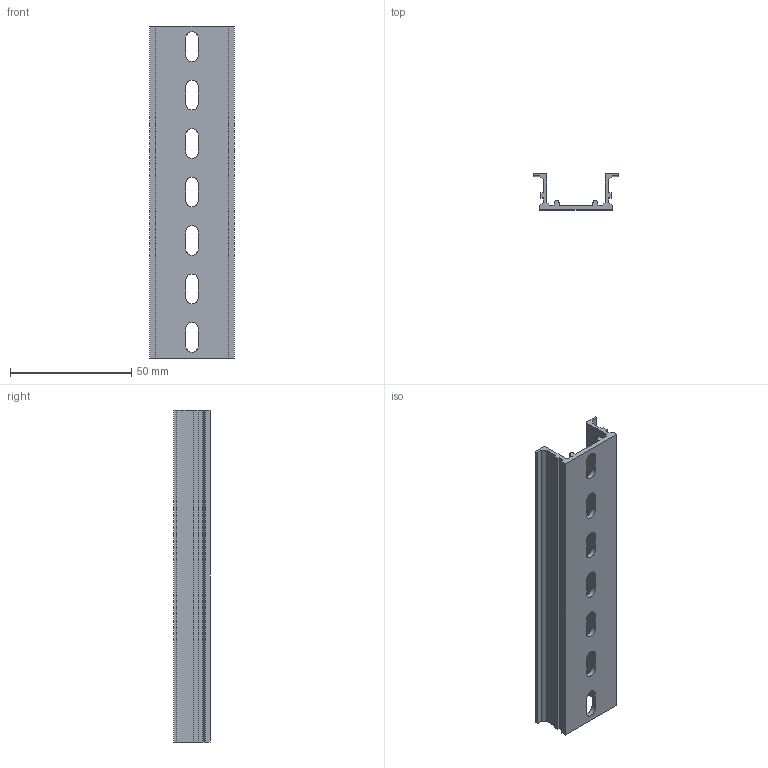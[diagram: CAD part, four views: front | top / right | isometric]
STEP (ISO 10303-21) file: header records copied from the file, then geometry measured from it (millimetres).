
FILE_DESCRIPTION(/* description */ (''),/* implementation_level */ '2;1');
FILE_NAME(/* name */ '22649-(TKB KD-7)HP 3D.stp',/* time_stamp */ '2024-12-05T12:22:03+09:00',/* author */ ('usercadg104'),/* organization */ (''),/* preprocessor_version */ 'ST-DEVELOPER v19.2',/* originating_system */ 'Autodesk Inventor 2023',/* authorisation */ '');
FILE_SCHEMA (('AUTOMOTIVE_DESIGN { 1 0 10303 214 3 1 1 }'));
Length unit declared in the file: millimetre
Products named in the file (1): 22649-(TKB KD-7)HP 3D
Bounding box: 35 x 15 x 137 mm (x, y, z)
Volume: 16014.5 mm3; surface area: 18705 mm2
Topology: 1 solids, 1 shells, 68 faces, 198 edges, 132 vertices
Faces by surface type: plane 50, cylinder 18
Entity records: 2309 total; most frequent: CARTESIAN_POINT 399, ORIENTED_EDGE 396, DIRECTION 372, EDGE_CURVE 198, LINE 162, VECTOR 162, VERTEX_POINT 132, AXIS2_PLACEMENT_3D 105
